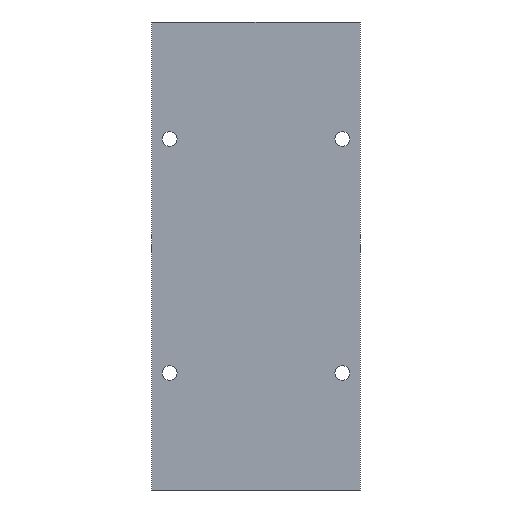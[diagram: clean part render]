
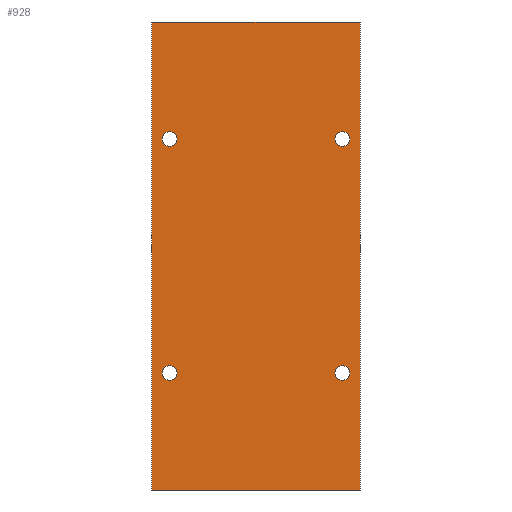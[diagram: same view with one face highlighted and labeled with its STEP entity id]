
A CAD part, front view. The second image highlights one B-rep face of the part: STEP entity #928.
In plain terms, the highlighted planar face has unit normal (0, -1, 0).
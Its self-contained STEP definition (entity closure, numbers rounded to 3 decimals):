
#2 = CIRCLE ( 'NONE', #837, 2.65 ) ;
#4 = VECTOR ( 'NONE', #728, 1000. ) ;
#7 = CARTESIAN_POINT ( 'NONE',  ( 31., -3., 128.65 ) ) ;
#11 = ORIENTED_EDGE ( 'NONE', *, *, #553, .F. ) ;
#13 = AXIS2_PLACEMENT_3D ( 'NONE', #616, #681, #755 ) ;
#14 = DIRECTION ( 'NONE',  ( 0., 0., 1. ) ) ;
#20 = CARTESIAN_POINT ( 'NONE',  ( 31., -3., 39.35 ) ) ;
#25 = CARTESIAN_POINT ( 'NONE',  ( -31., -3., 44.65 ) ) ;
#27 = LINE ( 'NONE', #154, #4 ) ;
#43 = EDGE_CURVE ( 'NONE', #251, #268, #406, .T. ) ;
#45 = AXIS2_PLACEMENT_3D ( 'NONE', #594, #889, #98 ) ;
#72 = FACE_BOUND ( 'NONE', #421, .T. ) ;
#84 = DIRECTION ( 'NONE',  ( 0., 0., 1. ) ) ;
#85 = DIRECTION ( 'NONE',  ( 0., 0., 1. ) ) ;
#97 = EDGE_CURVE ( 'NONE', #268, #251, #525, .T. ) ;
#98 = DIRECTION ( 'NONE',  ( 0., 0., 1. ) ) ;
#101 = LINE ( 'NONE', #139, #868 ) ;
#108 = ORIENTED_EDGE ( 'NONE', *, *, #97, .T. ) ;
#109 = PLANE ( 'NONE',  #366 ) ;
#115 = FACE_BOUND ( 'NONE', #254, .T. ) ;
#117 = EDGE_CURVE ( 'NONE', #921, #514, #809, .T. ) ;
#126 = AXIS2_PLACEMENT_3D ( 'NONE', #918, #772, #342 ) ;
#131 = CIRCLE ( 'NONE', #630, 2.65 ) ;
#137 = DIRECTION ( 'NONE',  ( 0., 0., -1. ) ) ;
#139 = CARTESIAN_POINT ( 'NONE',  ( -37.5, -3., 0. ) ) ;
#143 = CARTESIAN_POINT ( 'NONE',  ( 37.5, -3., 168. ) ) ;
#146 = DIRECTION ( 'NONE',  ( 1., 0., 0. ) ) ;
#154 = CARTESIAN_POINT ( 'NONE',  ( -37.5, -3., 168. ) ) ;
#171 = FACE_BOUND ( 'NONE', #803, .T. ) ;
#201 = ORIENTED_EDGE ( 'NONE', *, *, #945, .T. ) ;
#214 = EDGE_CURVE ( 'NONE', #478, #752, #650, .T. ) ;
#239 = EDGE_CURVE ( 'NONE', #619, #485, #891, .T. ) ;
#245 = DIRECTION ( 'NONE',  ( 0., 1., 0. ) ) ;
#248 = CARTESIAN_POINT ( 'NONE',  ( 31., -3., 42. ) ) ;
#251 = VERTEX_POINT ( 'NONE', #25 ) ;
#253 = DIRECTION ( 'NONE',  ( 0., 1., 0. ) ) ;
#254 = EDGE_LOOP ( 'NONE', ( #371, #586 ) ) ;
#260 = DIRECTION ( 'NONE',  ( 0., 0., 1. ) ) ;
#268 = VERTEX_POINT ( 'NONE', #842 ) ;
#275 = DIRECTION ( 'NONE',  ( 0., 0., 1. ) ) ;
#295 = VECTOR ( 'NONE', #547, 1000. ) ;
#338 = CARTESIAN_POINT ( 'NONE',  ( 31., -3., 123.35 ) ) ;
#342 = DIRECTION ( 'NONE',  ( 0., 0., 1. ) ) ;
#364 = CARTESIAN_POINT ( 'NONE',  ( 31., -3., 126. ) ) ;
#366 = AXIS2_PLACEMENT_3D ( 'NONE', #751, #253, #14 ) ;
#371 = ORIENTED_EDGE ( 'NONE', *, *, #453, .T. ) ;
#406 = CIRCLE ( 'NONE', #439, 2.65 ) ;
#412 = EDGE_LOOP ( 'NONE', ( #893, #11, #638, #562 ) ) ;
#418 = CARTESIAN_POINT ( 'NONE',  ( -37.5, -3., 168. ) ) ;
#421 = EDGE_LOOP ( 'NONE', ( #465, #108 ) ) ;
#432 = CARTESIAN_POINT ( 'NONE',  ( -31., -3., 42. ) ) ;
#433 = VERTEX_POINT ( 'NONE', #338 ) ;
#439 = AXIS2_PLACEMENT_3D ( 'NONE', #432, #734, #939 ) ;
#448 = FACE_OUTER_BOUND ( 'NONE', #412, .T. ) ;
#453 = EDGE_CURVE ( 'NONE', #854, #433, #2, .T. ) ;
#465 = ORIENTED_EDGE ( 'NONE', *, *, #43, .T. ) ;
#472 = FACE_BOUND ( 'NONE', #521, .T. ) ;
#477 = ORIENTED_EDGE ( 'NONE', *, *, #902, .T. ) ;
#478 = VERTEX_POINT ( 'NONE', #418 ) ;
#484 = LINE ( 'NONE', #637, #510 ) ;
#485 = VERTEX_POINT ( 'NONE', #712 ) ;
#506 = AXIS2_PLACEMENT_3D ( 'NONE', #248, #753, #85 ) ;
#510 = VECTOR ( 'NONE', #137, 1000. ) ;
#514 = VERTEX_POINT ( 'NONE', #707 ) ;
#521 = EDGE_LOOP ( 'NONE', ( #706, #477 ) ) ;
#523 = CARTESIAN_POINT ( 'NONE',  ( -37.5, -3., 0. ) ) ;
#525 = CIRCLE ( 'NONE', #45, 2.65 ) ;
#540 = EDGE_CURVE ( 'NONE', #752, #852, #101, .T. ) ;
#547 = DIRECTION ( 'NONE',  ( 0., 0., -1. ) ) ;
#553 = EDGE_CURVE ( 'NONE', #606, #852, #484, .T. ) ;
#561 = DIRECTION ( 'NONE',  ( 0., 1., 0. ) ) ;
#562 = ORIENTED_EDGE ( 'NONE', *, *, #214, .T. ) ;
#586 = ORIENTED_EDGE ( 'NONE', *, *, #727, .T. ) ;
#594 = CARTESIAN_POINT ( 'NONE',  ( -31., -3., 42. ) ) ;
#606 = VERTEX_POINT ( 'NONE', #143 ) ;
#616 = CARTESIAN_POINT ( 'NONE',  ( 31., -3., 42. ) ) ;
#619 = VERTEX_POINT ( 'NONE', #722 ) ;
#627 = EDGE_CURVE ( 'NONE', #478, #606, #27, .T. ) ;
#630 = AXIS2_PLACEMENT_3D ( 'NONE', #364, #649, #84 ) ;
#637 = CARTESIAN_POINT ( 'NONE',  ( 37.5, -3., 168. ) ) ;
#638 = ORIENTED_EDGE ( 'NONE', *, *, #627, .F. ) ;
#649 = DIRECTION ( 'NONE',  ( 0., 1., 0. ) ) ;
#650 = LINE ( 'NONE', #764, #295 ) ;
#657 = ORIENTED_EDGE ( 'NONE', *, *, #117, .T. ) ;
#664 = CIRCLE ( 'NONE', #13, 2.65 ) ;
#681 = DIRECTION ( 'NONE',  ( 0., 1., 0. ) ) ;
#706 = ORIENTED_EDGE ( 'NONE', *, *, #239, .T. ) ;
#707 = CARTESIAN_POINT ( 'NONE',  ( 31., -3., 44.65 ) ) ;
#712 = CARTESIAN_POINT ( 'NONE',  ( -31., -3., 123.35 ) ) ;
#722 = CARTESIAN_POINT ( 'NONE',  ( -31., -3., 128.65 ) ) ;
#727 = EDGE_CURVE ( 'NONE', #433, #854, #131, .T. ) ;
#728 = DIRECTION ( 'NONE',  ( 1., 0., 0. ) ) ;
#732 = AXIS2_PLACEMENT_3D ( 'NONE', #901, #245, #260 ) ;
#734 = DIRECTION ( 'NONE',  ( 0., 1., 0. ) ) ;
#735 = CARTESIAN_POINT ( 'NONE',  ( 37.5, -3., 0. ) ) ;
#751 = CARTESIAN_POINT ( 'NONE',  ( -37.5, -3., 168. ) ) ;
#752 = VERTEX_POINT ( 'NONE', #523 ) ;
#753 = DIRECTION ( 'NONE',  ( 0., 1., 0. ) ) ;
#755 = DIRECTION ( 'NONE',  ( 0., 0., 1. ) ) ;
#764 = CARTESIAN_POINT ( 'NONE',  ( -37.5, -3., 168. ) ) ;
#765 = CIRCLE ( 'NONE', #732, 2.65 ) ;
#772 = DIRECTION ( 'NONE',  ( 0., 1., 0. ) ) ;
#781 = CARTESIAN_POINT ( 'NONE',  ( 31., -3., 126. ) ) ;
#803 = EDGE_LOOP ( 'NONE', ( #201, #657 ) ) ;
#809 = CIRCLE ( 'NONE', #506, 2.65 ) ;
#837 = AXIS2_PLACEMENT_3D ( 'NONE', #781, #561, #275 ) ;
#842 = CARTESIAN_POINT ( 'NONE',  ( -31., -3., 39.35 ) ) ;
#852 = VERTEX_POINT ( 'NONE', #735 ) ;
#854 = VERTEX_POINT ( 'NONE', #7 ) ;
#868 = VECTOR ( 'NONE', #146, 1000. ) ;
#889 = DIRECTION ( 'NONE',  ( 0., 1., 0. ) ) ;
#891 = CIRCLE ( 'NONE', #126, 2.65 ) ;
#893 = ORIENTED_EDGE ( 'NONE', *, *, #540, .T. ) ;
#901 = CARTESIAN_POINT ( 'NONE',  ( -31., -3., 126. ) ) ;
#902 = EDGE_CURVE ( 'NONE', #485, #619, #765, .T. ) ;
#918 = CARTESIAN_POINT ( 'NONE',  ( -31., -3., 126. ) ) ;
#921 = VERTEX_POINT ( 'NONE', #20 ) ;
#928 = ADVANCED_FACE ( 'NONE', ( #115, #472, #171, #72, #448 ), #109, .F. ) ;
#939 = DIRECTION ( 'NONE',  ( 0., 0., 1. ) ) ;
#945 = EDGE_CURVE ( 'NONE', #514, #921, #664, .T. ) ;
